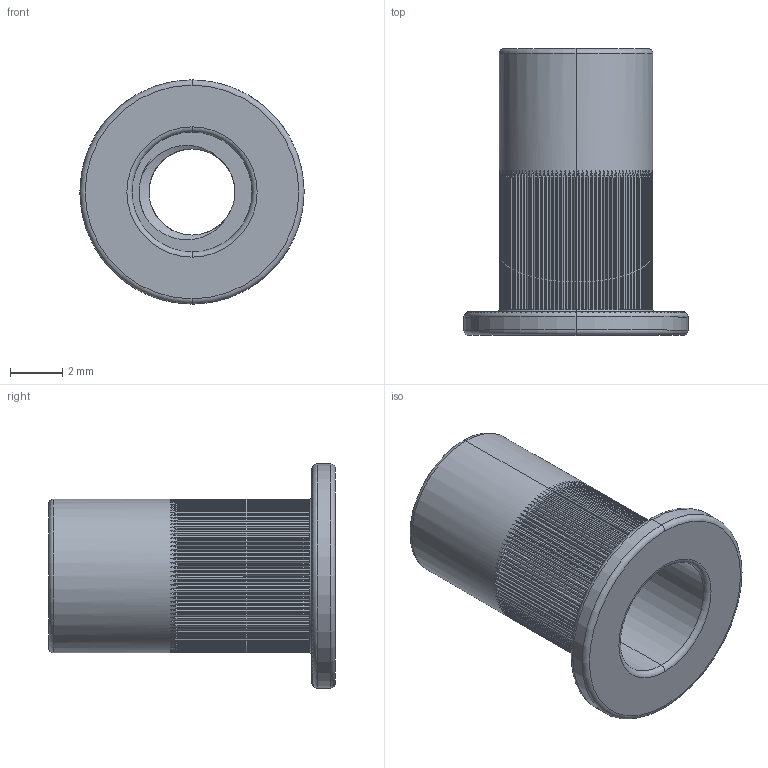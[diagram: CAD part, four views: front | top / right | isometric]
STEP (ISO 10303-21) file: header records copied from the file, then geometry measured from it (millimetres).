
FILE_DESCRIPTION (( 'STEP AP203' ), '1' );
FILE_NAME ('TANR-SAT-M4.STEP', '2026-08-24T09:18:08', ( '' ), ( '' ), 'SwSTEP 2.0', 'SolidWorks 2020', '' );
FILE_SCHEMA (( 'CONFIG_CONTROL_DESIGN' ));
Length unit declared in the file: millimetre
Products named in the file (1): TANR-SAT-M4
Bounding box: 8.6 x 11 x 8.6 mm (x, y, z)
Volume: 177.7 mm3; surface area: 505.6 mm2
Topology: 1 solids, 1 shells, 1072 faces, 3071 edges, 2003 vertices
Faces by surface type: plane 464, cone 463, cylinder 132, torus 10, bspline 3
Entity records: 36891 total; most frequent: CARTESIAN_POINT 12525, ORIENTED_EDGE 5702, DIRECTION 4304, EDGE_CURVE 2851, VERTEX_POINT 1783, AXIS2_PLACEMENT_3D 1565, VECTOR 1174, LINE 1174
